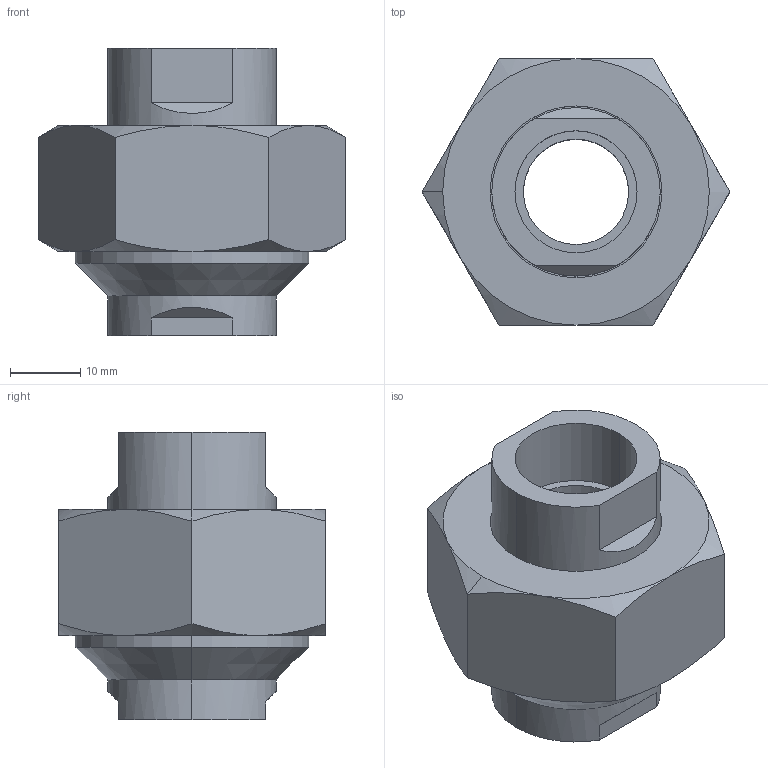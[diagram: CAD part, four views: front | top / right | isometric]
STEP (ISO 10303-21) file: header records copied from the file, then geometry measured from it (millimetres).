
FILE_DESCRIPTION (( 'STEP AP203' ), '1' );
FILE_NAME ('12-0131-04_outokumpu.step', '2015-08-12T08:07:14', ( '' ), ( '' ), 'SwSTEP 2.0', 'SolidWorks 2008', '' );
FILE_SCHEMA (( 'CONFIG_CONTROL_DESIGN' ));
Length unit declared in the file: millimetre
Products named in the file (4): 12-0131-04_outokumpu; nut-13-222-033_outokumpu_nut-13-222-033_outokumpu; case-13-555-360_outokumpu_case-13-555-360_outokumpu; nipple-13-444-180_outokumpu_nipple-13-444-180_outokumpu
Assembly tree (3 placements, depth 2):
  12-0131-04_outokumpu
    nipple-13-444-180_outokumpu_nipple-13-444-180_outokumpu
    case-13-555-360_outokumpu_case-13-555-360_outokumpu
    nut-13-222-033_outokumpu_nut-13-222-033_outokumpu
Bounding box: 43.88 x 38 x 41 mm (x, y, z)
Volume: 23064.8 mm3; surface area: 13659.6 mm2
Topology: 3 solids, 3 shells, 68 faces, 148 edges, 92 vertices
Faces by surface type: plane 26, cone 22, cylinder 20
Entity records: 2406 total; most frequent: CARTESIAN_POINT 494, DIRECTION 336, ORIENTED_EDGE 296, EDGE_CURVE 148, AXIS2_PLACEMENT_3D 142, VERTEX_POINT 92, EDGE_LOOP 80, ADVANCED_FACE 68
